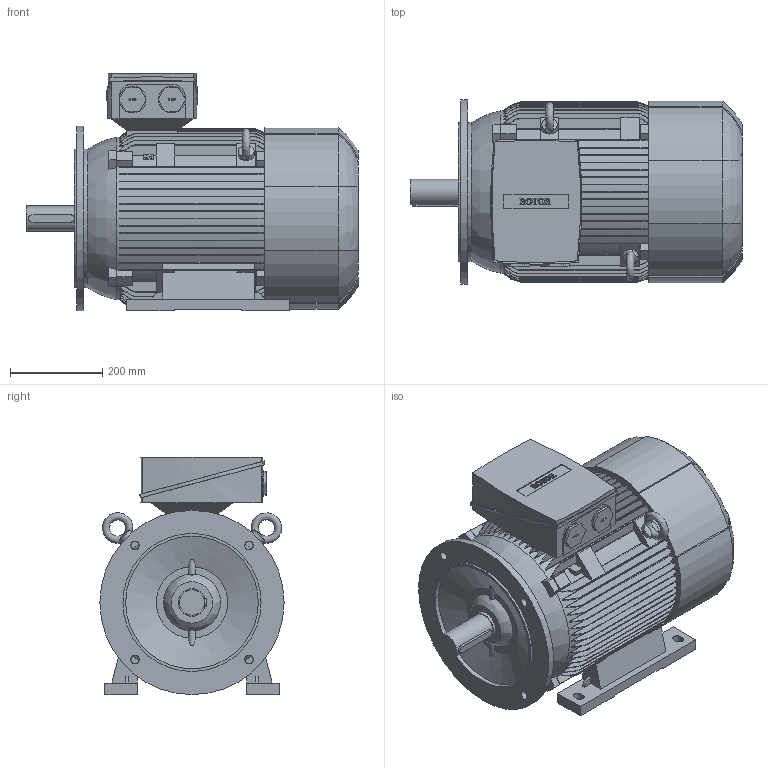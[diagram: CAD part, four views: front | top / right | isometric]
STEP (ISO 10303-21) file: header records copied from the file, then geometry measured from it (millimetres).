
FILE_DESCRIPTION (( 'STEP AP214' ), '1' );
FILE_NAME ('6RN200L02E14 IM2001.STEP', '2016-02-12T15:08:33', ( 'rotor' ), ( 'Hewlett-Packard Company' ), 'SwSTEP 2.0', 'SolidWorks 2012', '' );
FILE_SCHEMA (( 'AUTOMOTIVE_DESIGN' ));
Length unit declared in the file: millimetre
Products named in the file (1): 6RN200L02E14 IM2001
Bounding box: 721 x 400 x 515 mm (x, y, z)
Volume: 71252021.1 mm3; surface area: 2116113 mm2
Topology: 1 solids, 1 shells, 812 faces, 2315 edges, 1537 vertices
Faces by surface type: plane 473, bspline 204, cylinder 130, cone 5
Full cylindrical faces by diameter (mm): 5 x1, 18.5 x4, 35 x2, 55 x1, 58 x2, 60 x1, 288 x1, 300 x2, 400 x1
Entity records: 42984 total; most frequent: CARTESIAN_POINT 15703, ORIENTED_EDGE 4570, DIRECTION 3335, EDGE_CURVE 2285, VERTEX_POINT 1527, LINE 1337, VECTOR 1337, AXIS2_PLACEMENT_3D 999
